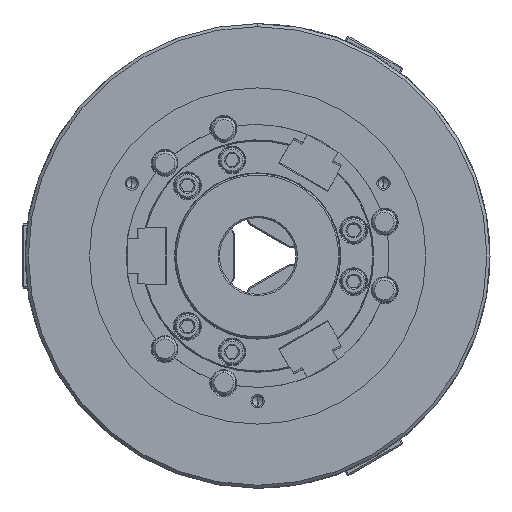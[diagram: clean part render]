
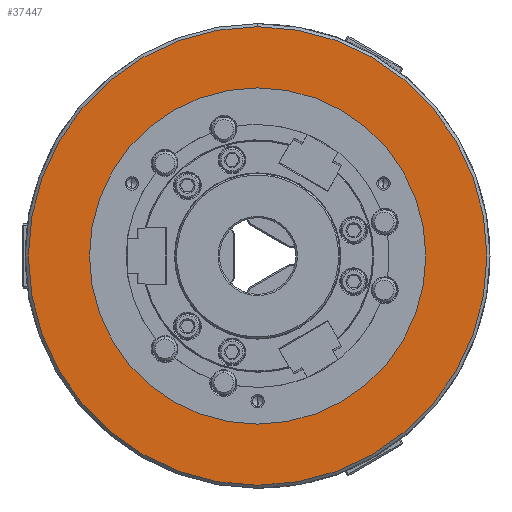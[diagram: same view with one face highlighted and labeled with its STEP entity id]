
A CAD part, left-side view. The second image highlights one B-rep face of the part: STEP entity #37447.
In plain terms, the highlighted planar face has unit normal (-1, 0, 0).
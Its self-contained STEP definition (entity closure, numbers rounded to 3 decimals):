
#296 = CARTESIAN_POINT ( 'NONE',  ( -110., 0., 0. ) ) ;
#3375 = PLANE ( 'NONE',  #11377 ) ;
#4884 = CIRCLE ( 'NONE', #38170, 110. ) ;
#6376 = CARTESIAN_POINT ( 'NONE',  ( -110., 0., 0. ) ) ;
#9161 = CARTESIAN_POINT ( 'NONE',  ( -110., 0., 0. ) ) ;
#9706 = AXIS2_PLACEMENT_3D ( 'NONE', #296, #69090, #70592 ) ;
#11377 = AXIS2_PLACEMENT_3D ( 'NONE', #26910, #15702, #68634 ) ;
#12545 = CARTESIAN_POINT ( 'NONE',  ( -110., 0., 0. ) ) ;
#14805 = VERTEX_POINT ( 'NONE', #31023 ) ;
#15702 = DIRECTION ( 'NONE',  ( 1., 0., 0. ) ) ;
#16986 = ORIENTED_EDGE ( 'NONE', *, *, #27421, .F. ) ;
#20852 = CIRCLE ( 'NONE', #9706, 150. ) ;
#23984 = VERTEX_POINT ( 'NONE', #61502 ) ;
#24321 = EDGE_LOOP ( 'NONE', ( #16986, #41197 ) ) ;
#26367 = CIRCLE ( 'NONE', #67066, 110. ) ;
#26910 = CARTESIAN_POINT ( 'NONE',  ( -110., 150., 0. ) ) ;
#27421 = EDGE_CURVE ( 'NONE', #14805, #65325, #26367, .T. ) ;
#28687 = CARTESIAN_POINT ( 'NONE',  ( -110., 0., 150. ) ) ;
#31023 = CARTESIAN_POINT ( 'NONE',  ( -110., 0., 110. ) ) ;
#33114 = DIRECTION ( 'NONE',  ( -1., 0., 0. ) ) ;
#37447 = ADVANCED_FACE ( 'NONE', ( #45082, #62451 ), #3375, .F. ) ;
#38170 = AXIS2_PLACEMENT_3D ( 'NONE', #6376, #46944, #75894 ) ;
#41197 = ORIENTED_EDGE ( 'NONE', *, *, #66134, .F. ) ;
#44328 = DIRECTION ( 'NONE',  ( 0., 0., 1. ) ) ;
#45082 = FACE_BOUND ( 'NONE', #24321, .T. ) ;
#46944 = DIRECTION ( 'NONE',  ( -1., 0., 0. ) ) ;
#54605 = EDGE_LOOP ( 'NONE', ( #58997, #66382 ) ) ;
#56905 = CARTESIAN_POINT ( 'NONE',  ( -110., 0., -110. ) ) ;
#57920 = EDGE_CURVE ( 'NONE', #23984, #72577, #74237, .T. ) ;
#58997 = ORIENTED_EDGE ( 'NONE', *, *, #57920, .T. ) ;
#61502 = CARTESIAN_POINT ( 'NONE',  ( -110., 0., -150. ) ) ;
#62451 = FACE_OUTER_BOUND ( 'NONE', #54605, .T. ) ;
#65325 = VERTEX_POINT ( 'NONE', #56905 ) ;
#66134 = EDGE_CURVE ( 'NONE', #65325, #14805, #4884, .T. ) ;
#66382 = ORIENTED_EDGE ( 'NONE', *, *, #73167, .T. ) ;
#66606 = DIRECTION ( 'NONE',  ( 0., 0., 1. ) ) ;
#66987 = DIRECTION ( 'NONE',  ( -1., 0., 0. ) ) ;
#67066 = AXIS2_PLACEMENT_3D ( 'NONE', #9161, #33114, #44328 ) ;
#68634 = DIRECTION ( 'NONE',  ( 0., 0., -1. ) ) ;
#69090 = DIRECTION ( 'NONE',  ( -1., 0., 0. ) ) ;
#70592 = DIRECTION ( 'NONE',  ( 0., 0., 1. ) ) ;
#72577 = VERTEX_POINT ( 'NONE', #28687 ) ;
#73026 = AXIS2_PLACEMENT_3D ( 'NONE', #12545, #66987, #66606 ) ;
#73167 = EDGE_CURVE ( 'NONE', #72577, #23984, #20852, .T. ) ;
#74237 = CIRCLE ( 'NONE', #73026, 150. ) ;
#75894 = DIRECTION ( 'NONE',  ( 0., 0., 1. ) ) ;
